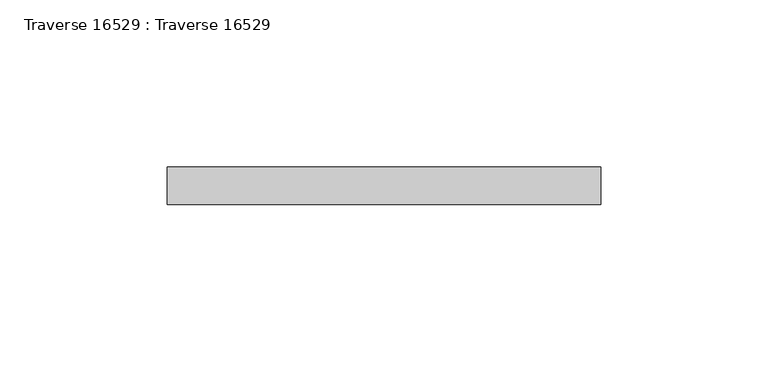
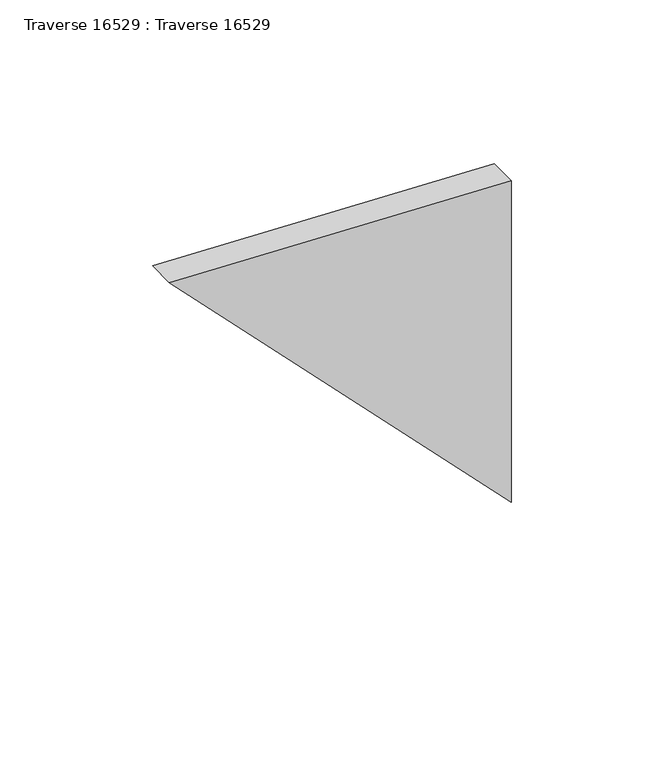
"""IFC4 building model written with IfcOpenShell, lengths in millimetres: beam geometry, Traverse 16529 : Traverse 16529."""

from ifc_helpers import new_model, si_unit, frame, origin, place, context, project, spatial, polyline, outline, extrude, source, transform, mapped, element, save


def traverse_16529_traverse_16529_c6d7372f(model_context):
    return source(origin(), model_context, "Body", "SweptSolid", [
        extrude(outline(polyline([(6966.680963, 15375.0106718), (7095.3295249, 15375.0157176), (7099.8571524, 15245.6549316), (6966.680963, 15375.0106718)])), frame((0.0, -4305.55, 0.0), z_axis=(0.0, 1.0, 0.0), x_axis=(0.0, 0.0, 1.0)), (0.0, 0.0, 1.0), 11.1),
    ])


if __name__ == "__main__":
    model = new_model("IFC4")
    model_context = context("Model", 3, world=origin())
    ifc_project = project(units=[si_unit("LENGTHUNIT", "METRE", prefix="MILLI")], contexts=[model_context])
    site = spatial("IfcSite", under=ifc_project)
    building = spatial("IfcBuilding", under=site)
    placement = place(None, origin())
    traverse_16529_traverse_16529_shape = traverse_16529_traverse_16529_c6d7372f(model_context)
    element("IfcBeam", 1, ObjectType="Traverse 16529 : Traverse 16529", at=placement, inside=building, context=model_context, shape_type="MappedRepresentation", body=[
        mapped(traverse_16529_traverse_16529_shape, transform((0.0, 0.0, 0.0), x_axis=(1.0, 0.0, 0.0), y_axis=(0.0, 1.0, 0.0), z_axis=(0.0, 0.0, 1.0))),
    ])
    save(model, "model.ifc")
